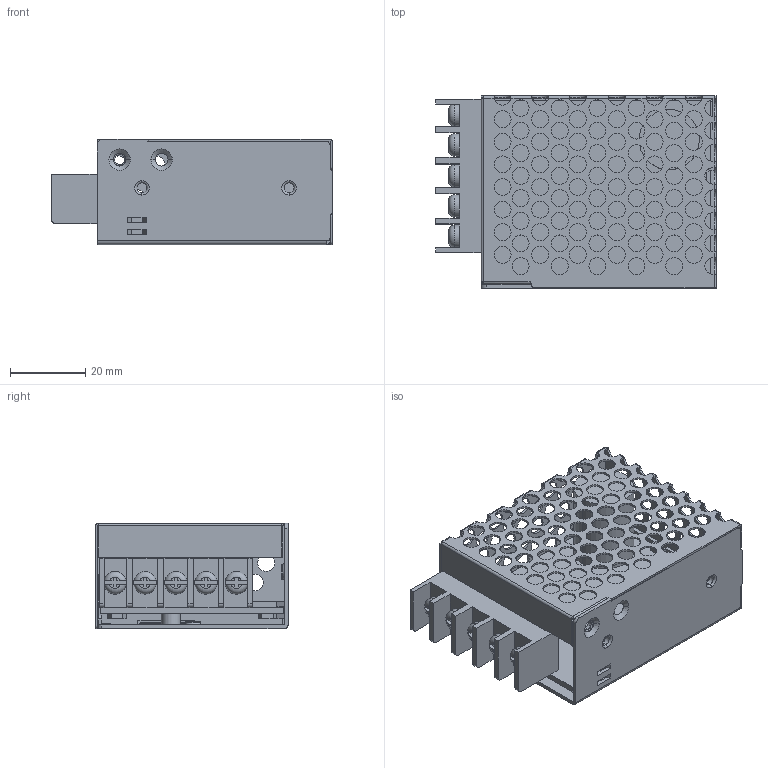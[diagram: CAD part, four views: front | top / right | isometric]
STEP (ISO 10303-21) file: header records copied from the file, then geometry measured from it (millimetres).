
FILE_DESCRIPTION(('Creo Elements/Direct Modeling STEP Export'),'2;1');
FILE_NAME('RS-15.stp','2016-03-03T14:36:15',(''),(''),'PTC Creo Elements/Direct Modeling STEP processor for AP214 (Solid Model)','PTC Creo Elements/Direct Modeling 19.0 09-May-2014 (C) Parametric Technology GmbH','');
FILE_SCHEMA(('AUTOMOTIVE_DESIGN { 1 0 10303 214 1 1 1 1 }'));
Length unit declared in the file: millimetre
Products named in the file (3): PCB; p2; RS-15
Assembly tree (2 placements, depth 2):
  RS-15
    p2
    PCB
Bounding box: 74.56 x 51.1 x 28 mm (x, y, z)
Volume: 21899.2 mm3; surface area: 30464.4 mm2
Topology: 2 solids, 2 shells, 773 faces, 2213 edges, 1407 vertices
Faces by surface type: cylinder 426, plane 285, torus 30, bspline 28, cone 4
Entity records: 29030 total; most frequent: CARTESIAN_POINT 9677, ORIENTED_EDGE 4438, DIRECTION 3425, EDGE_CURVE 2215, VERTEX_POINT 1410, AXIS2_PLACEMENT_3D 1178, EDGE_LOOP 1087, VECTOR 1069
